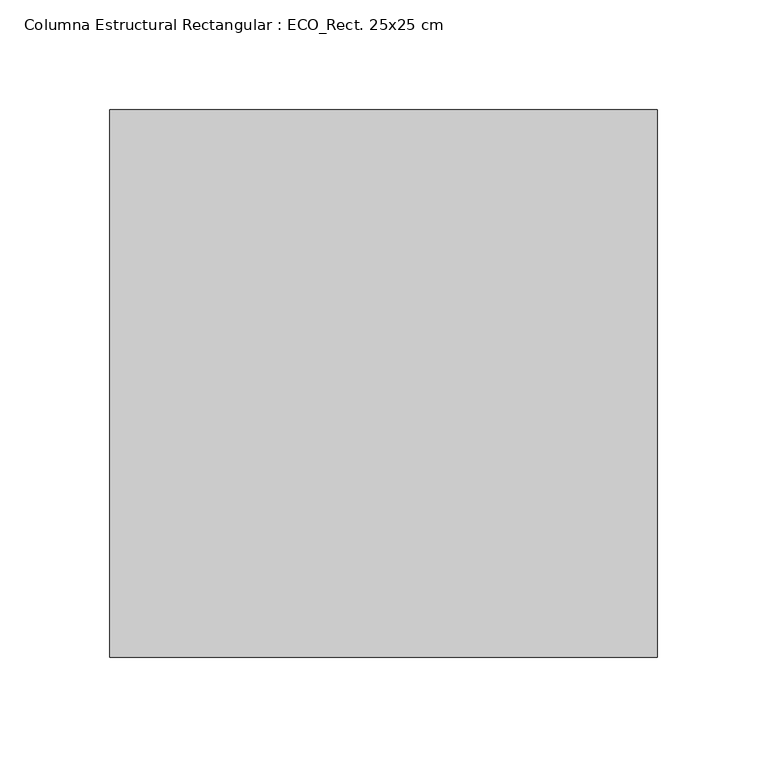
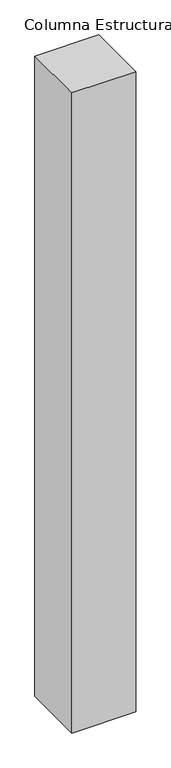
"""IFC4 building model written with IfcOpenShell, lengths in millimetres: column geometry, Columna Estructural Rectangular : ECO_Rect. 25x25 cm."""

from ifc_helpers import new_model, si_unit, frame, origin, place, context, project, spatial, polyline, outline, extrude, source, transform, mapped, element, save


def columna_estructural_rectangular_eco_rect_25x25_cm_815699de(model_context):
    return source(origin(), model_context, "Body", "SweptSolid", [
        extrude(outline(polyline([(125.0, 125.0), (125.0, -125.0), (-125.0, -125.0), (-125.0, 125.0), (125.0, 125.0)])), frame((0.0, 0.0, 5400.0), z_axis=(0.0, 0.0, 1.0), x_axis=(1.0, 0.0, 0.0)), (0.0, 0.0, 1.0), 2650.0),
    ])


if __name__ == "__main__":
    model = new_model("IFC4")
    model_context = context("Model", 3, world=origin())
    ifc_project = project(units=[si_unit("LENGTHUNIT", "METRE", prefix="MILLI")], contexts=[model_context])
    site = spatial("IfcSite", under=ifc_project)
    building = spatial("IfcBuilding", under=site)
    placement = place(None, origin())
    columna_estructural_rectangular_eco_rect_25x25_cm_shape = columna_estructural_rectangular_eco_rect_25x25_cm_815699de(model_context)
    element("IfcColumn", 1, ObjectType="Columna Estructural Rectangular : ECO_Rect. 25x25 cm", at=placement, inside=building, context=model_context, shape_type="MappedRepresentation", body=[
        mapped(columna_estructural_rectangular_eco_rect_25x25_cm_shape, transform((0.0, 0.0, 0.0), x_axis=(1.0, 0.0, 0.0), y_axis=(0.0, 1.0, 0.0), z_axis=(0.0, 0.0, 1.0))),
    ])
    save(model, "model.ifc")
